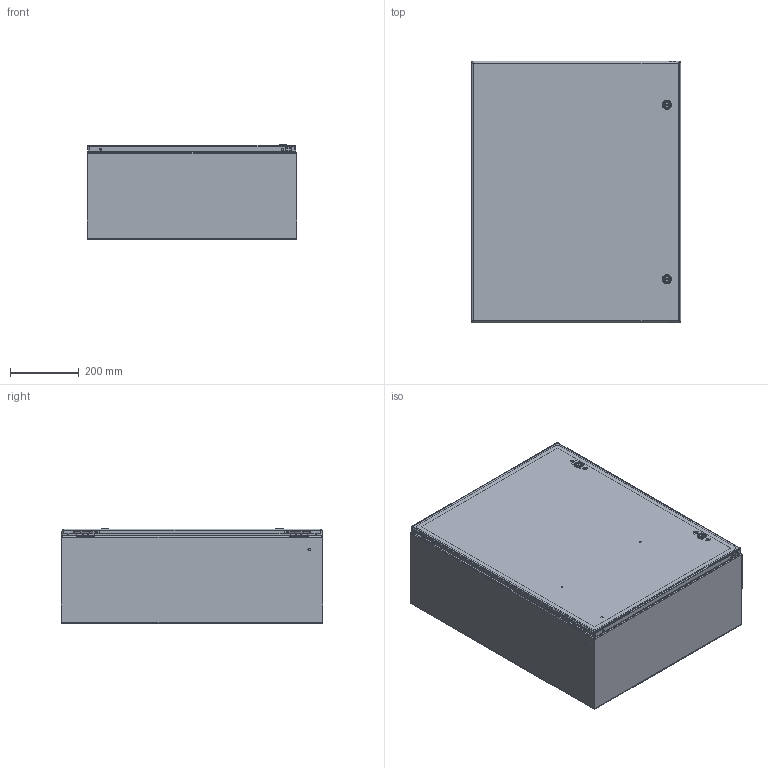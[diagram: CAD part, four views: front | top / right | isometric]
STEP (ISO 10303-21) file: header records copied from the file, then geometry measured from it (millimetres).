
FILE_DESCRIPTION (( 'STEP AP203' ), '1' );
FILE_NAME ('csd302410lg.STEP', '2012-04-19T19:58:30', ( 'Hoffman User' ), ( 'Hoffman Enclosures' ), 'SwSTEP 2.0', 'SolidWorks 2010', '' );
FILE_SCHEMA (( 'CONFIG_CONTROL_DESIGN' ));
Length unit declared in the file: inch
Products named in the file (27): csd302410lg; 87951447; 87755918_default; 23271001_After Weld; 87937939_assy; 87937979_weldment; 87937915; 99401225; 87931362_87931362; 64101001; 64201001; 87541994_Installed Height; 87541995; 64202001; 64210001; 64203001; 87927840_87927840; 87932903; 64138001; 89057565; 87543027; 89076399; 89076193; 89056623; 87929507; 87929767; 87929769_Installed on Pin
Assembly tree (43 placements, depth 4):
  csd302410lg
    87937939_assy
      64138001  x2
      87937979_weldment
        99401225
        87931362_87931362  x6
        87937915
      64101001  x2
        87541995
        87541994_Installed Height
        64201001
        87927840_87927840
        64203001
        64210001
        64202001
      87932903  x4
      89057565
    87929507  x2
      87929769_Installed on Pin
      87929767
    89076399  x2
      89056623
      89076193
    87543027  x2
    87951447
      99401225
      87755918_default
      23271001_After Weld  x4
Bounding box: 609.6 x 762.3 x 274.7 mm (x, y, z)
Volume: 2863197.8 mm3; surface area: 3629623.1 mm2
Topology: 47 solids, 47 shells, 2331 faces, 5754 edges, 3472 vertices
Faces by surface type: plane 851, cylinder 704, bspline 512, cone 132, torus 124, sphere 8
Entity records: 46673 total; most frequent: CARTESIAN_POINT 16355, ORIENTED_EDGE 5918, DIRECTION 5185, EDGE_CURVE 2959, AXIS2_PLACEMENT_3D 1860, VERTEX_POINT 1814, LINE 1465, VECTOR 1465
